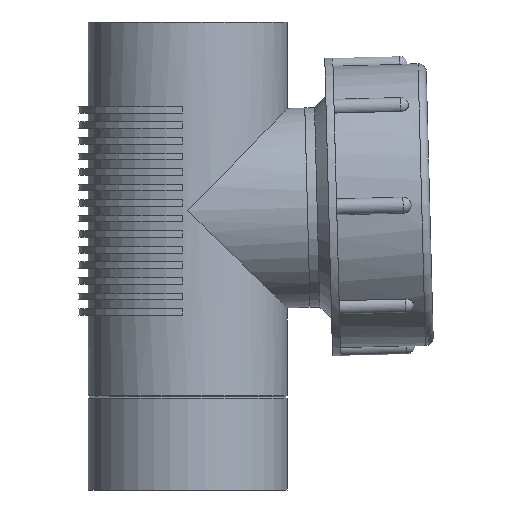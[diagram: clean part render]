
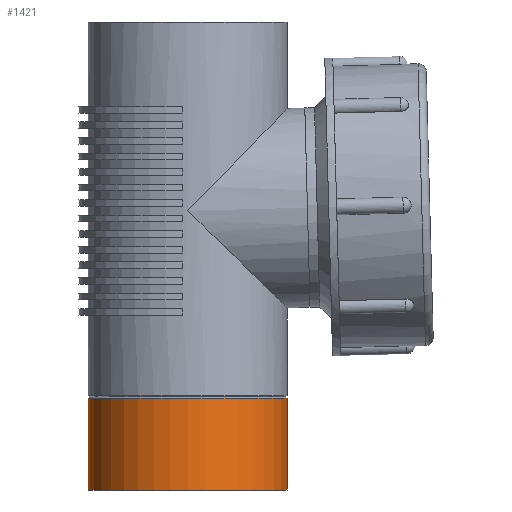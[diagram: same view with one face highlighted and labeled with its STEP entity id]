
A CAD part, front view. The second image highlights one B-rep face of the part: STEP entity #1421.
In plain terms, the highlighted cylindrical face has radius 37.5 mm (diameter 75 mm), a full revolution.
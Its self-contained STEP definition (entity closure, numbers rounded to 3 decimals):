
#188=CYLINDRICAL_SURFACE($,#1526,37.5);
#226=FACE_BOUND($,#367,.T.);
#273=FACE_OUTER_BOUND($,#366,.T.);
#366=EDGE_LOOP($,(#946));
#367=EDGE_LOOP($,(#947));
#502=CIRCLE($,#1525,37.5);
#503=CIRCLE($,#1527,37.5);
#624=VERTEX_POINT($,#2255);
#625=VERTEX_POINT($,#2258);
#758=EDGE_CURVE($,#624,#624,#502,.T.);
#759=EDGE_CURVE($,#625,#625,#503,.T.);
#946=ORIENTED_EDGE($,*,*,#759,.F.);
#947=ORIENTED_EDGE($,*,*,#758,.T.);
#1421=ADVANCED_FACE($,(#273,#226),#188,.T.);
#1525=AXIS2_PLACEMENT_3D($,#2256,#1758,#1759);
#1526=AXIS2_PLACEMENT_3D($,#2257,#1760,#1761);
#1527=AXIS2_PLACEMENT_3D($,#2259,#1762,#1763);
#1758=DIRECTION('center_axis',(0.,0.,-1.));
#1759=DIRECTION('ref_axis',(-1.,0.,0.));
#1760=DIRECTION('center_axis',(0.,0.,1.));
#1761=DIRECTION('ref_axis',(-1.,0.,0.));
#1762=DIRECTION('center_axis',(0.,0.,-1.));
#1763=DIRECTION('ref_axis',(-1.,0.,0.));
#2255=CARTESIAN_POINT('',(-37.5,0.,34.567));
#2256=CARTESIAN_POINT('Origin',(0.,0.,34.567));
#2257=CARTESIAN_POINT('Origin',(0.,0.,0.));
#2258=CARTESIAN_POINT('',(37.5,0.,0.));
#2259=CARTESIAN_POINT('Origin',(0.,0.,0.));
